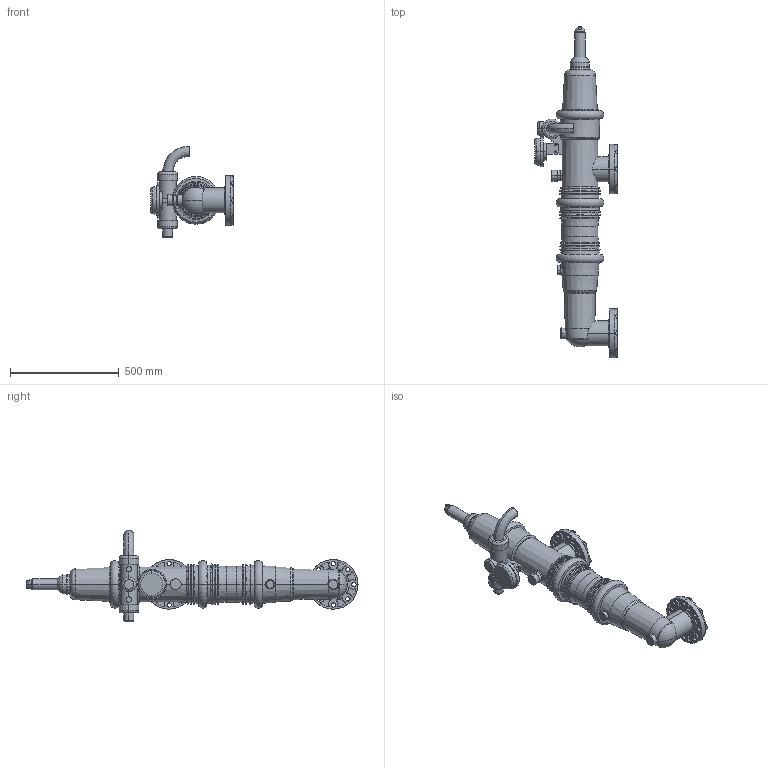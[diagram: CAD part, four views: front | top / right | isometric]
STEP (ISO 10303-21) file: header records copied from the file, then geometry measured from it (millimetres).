
FILE_DESCRIPTION (( 'STEP AP203' ), '1' );
FILE_NAME ('055002-000008.STEP', '2021-12-13T08:17:02', ( '' ), ( '' ), 'SwSTEP 2.0', 'SolidWorks 2019', '' );
FILE_SCHEMA (( 'CONFIG_CONTROL_DESIGN' ));
Length unit declared in the file: millimetre
Products named in the file (1): 055002-000008
Bounding box: 381.5 x 1526.07 x 421 mm (x, y, z)
Volume: 34068557.4 mm3; surface area: 1368074.9 mm2
Topology: 6 solids, 6 shells, 832 faces, 2186 edges, 1384 vertices
Faces by surface type: cylinder 366, plane 229, cone 138, torus 81, bspline 16, sphere 2
Entity records: 29812 total; most frequent: CARTESIAN_POINT 8435, DIRECTION 4876, ORIENTED_EDGE 4368, EDGE_CURVE 2184, AXIS2_PLACEMENT_3D 2025, VERTEX_POINT 1384, CIRCLE 1208, EDGE_LOOP 896
